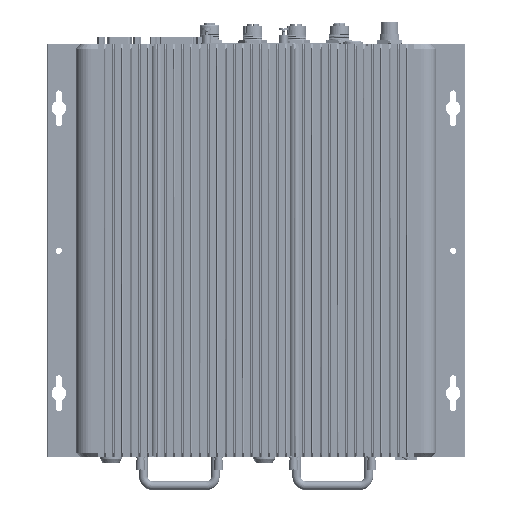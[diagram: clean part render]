
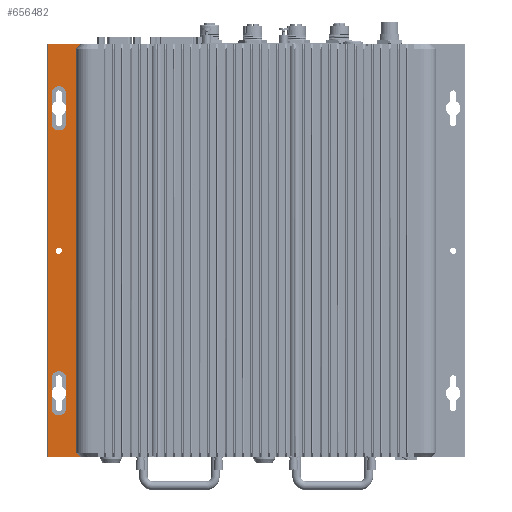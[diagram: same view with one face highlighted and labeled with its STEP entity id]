
A CAD part, front view. The second image highlights one B-rep face of the part: STEP entity #656482.
In plain terms, the highlighted planar face has unit normal (0, -1, 0).
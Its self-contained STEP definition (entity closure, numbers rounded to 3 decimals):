
#203703=DIRECTION('',(-1.,0.,0.));
#203704=VECTOR('',#203703,22.7);
#203705=CARTESIAN_POINT('',(3.703,87.203,-263.4));
#203706=LINE('',#203705,#203704);
#203760=DIRECTION('',(1.,0.,0.));
#203761=VECTOR('',#203760,22.7);
#203762=CARTESIAN_POINT('',(-18.997,87.203,23.4));
#203763=LINE('',#203762,#203761);
#203896=DIRECTION('',(0.,0.,1.));
#203897=VECTOR('',#203896,286.8);
#203898=CARTESIAN_POINT('',(-18.997,87.203,-263.4));
#203899=LINE('',#203898,#203897);
#203904=CARTESIAN_POINT('',(-11.497,87.203,-208.7));
#203905=DIRECTION('',(0.,1.,0.));
#203906=DIRECTION('',(-1.,0.,0.));
#203907=AXIS2_PLACEMENT_3D('',#203904,#203905,#203906);
#203909=DIRECTION('',(0.,0.,1.));
#203910=VECTOR('',#203909,20.6);
#203911=CARTESIAN_POINT('',(-16.597,87.203,-229.3));
#203912=LINE('',#203911,#203910);
#203913=CARTESIAN_POINT('',(-11.497,87.203,-229.3));
#203914=DIRECTION('',(0.,1.,0.));
#203915=DIRECTION('',(1.,0.,0.));
#203916=AXIS2_PLACEMENT_3D('',#203913,#203914,#203915);
#203918=DIRECTION('',(0.,0.,-1.));
#203919=VECTOR('',#203918,20.6);
#203920=CARTESIAN_POINT('',(-6.397,87.203,-208.7));
#203921=LINE('',#203920,#203919);
#203922=CARTESIAN_POINT('',(-11.497,87.203,-10.7));
#203923=DIRECTION('',(0.,1.,0.));
#203924=DIRECTION('',(-1.,0.,0.));
#203925=AXIS2_PLACEMENT_3D('',#203922,#203923,#203924);
#203927=DIRECTION('',(0.,0.,1.));
#203928=VECTOR('',#203927,20.6);
#203929=CARTESIAN_POINT('',(-16.597,87.203,-31.3));
#203930=LINE('',#203929,#203928);
#203931=CARTESIAN_POINT('',(-11.497,87.203,-31.3));
#203932=DIRECTION('',(0.,1.,0.));
#203933=DIRECTION('',(1.,0.,0.));
#203934=AXIS2_PLACEMENT_3D('',#203931,#203932,#203933);
#203936=DIRECTION('',(0.,0.,-1.));
#203937=VECTOR('',#203936,20.6);
#203938=CARTESIAN_POINT('',(-6.397,87.203,-10.7));
#203939=LINE('',#203938,#203937);
#203940=CARTESIAN_POINT('',(-11.497,87.203,-120.));
#203941=DIRECTION('',(0.,1.,0.));
#203942=DIRECTION('',(1.,0.,0.));
#203943=AXIS2_PLACEMENT_3D('',#203940,#203941,#203942);
#203945=CARTESIAN_POINT('',(-11.497,87.203,-120.));
#203946=DIRECTION('',(0.,1.,0.));
#203947=DIRECTION('',(-1.,0.,0.));
#203948=AXIS2_PLACEMENT_3D('',#203945,#203946,#203947);
#203950=DIRECTION('',(0.,0.,-1.));
#203951=VECTOR('',#203950,286.8);
#203952=CARTESIAN_POINT('',(3.703,87.203,23.4));
#203953=LINE('',#203952,#203951);
#301771=CARTESIAN_POINT('',(3.703,87.203,23.4));
#301772=VERTEX_POINT('',#301771);
#301798=CARTESIAN_POINT('',(-18.997,87.203,23.4));
#301799=VERTEX_POINT('',#301798);
#301804=CARTESIAN_POINT('',(3.703,87.203,-263.4));
#301805=VERTEX_POINT('',#301804);
#301852=CARTESIAN_POINT('',(-18.997,87.203,-263.4));
#301853=VERTEX_POINT('',#301852);
#301935=CARTESIAN_POINT('',(-16.597,87.203,-208.7));
#301936=VERTEX_POINT('',#301935);
#301939=CARTESIAN_POINT('',(-6.397,87.203,-208.7));
#301940=VERTEX_POINT('',#301939);
#301976=CARTESIAN_POINT('',(-16.597,87.203,-229.3));
#301977=VERTEX_POINT('',#301976);
#301982=CARTESIAN_POINT('',(-16.597,87.203,-10.7));
#301983=CARTESIAN_POINT('',(-6.397,87.203,-10.7));
#301984=VERTEX_POINT('',#301982);
#301985=VERTEX_POINT('',#301983);
#301986=CARTESIAN_POINT('',(-6.397,87.203,-229.3));
#301987=VERTEX_POINT('',#301986);
#302039=CARTESIAN_POINT('',(-9.347,87.203,-120.));
#302040=CARTESIAN_POINT('',(-13.647,87.203,-120.));
#302041=VERTEX_POINT('',#302039);
#302042=VERTEX_POINT('',#302040);
#302043=CARTESIAN_POINT('',(-6.397,87.203,-31.3));
#302044=VERTEX_POINT('',#302043);
#302045=CARTESIAN_POINT('',(-16.597,87.203,-31.3));
#302046=VERTEX_POINT('',#302045);
#656444=CARTESIAN_POINT('',(-19.497,87.203,-263.4));
#656445=DIRECTION('',(0.,-1.,0.));
#656446=DIRECTION('',(1.,0.,0.));
#656447=AXIS2_PLACEMENT_3D('',#656444,#656445,#656446);
#656448=PLANE('',#656447);
#656449=ORIENTED_EDGE('',*,*,#656275,.T.);
#656450=ORIENTED_EDGE('',*,*,#656436,.T.);
#656451=ORIENTED_EDGE('',*,*,#656318,.T.);
#656453=ORIENTED_EDGE('',*,*,#656452,.T.);
#656454=EDGE_LOOP('',(#656449,#656450,#656451,#656453));
#656455=FACE_OUTER_BOUND('',#656454,.F.);
#656457=ORIENTED_EDGE('',*,*,#656456,.F.);
#656459=ORIENTED_EDGE('',*,*,#656458,.F.);
#656461=ORIENTED_EDGE('',*,*,#656460,.F.);
#656463=ORIENTED_EDGE('',*,*,#656462,.F.);
#656464=EDGE_LOOP('',(#656457,#656459,#656461,#656463));
#656465=FACE_BOUND('',#656464,.F.);
#656467=ORIENTED_EDGE('',*,*,#656466,.F.);
#656469=ORIENTED_EDGE('',*,*,#656468,.F.);
#656471=ORIENTED_EDGE('',*,*,#656470,.F.);
#656473=ORIENTED_EDGE('',*,*,#656472,.F.);
#656474=EDGE_LOOP('',(#656467,#656469,#656471,#656473));
#656475=FACE_BOUND('',#656474,.F.);
#656477=ORIENTED_EDGE('',*,*,#656476,.F.);
#656479=ORIENTED_EDGE('',*,*,#656478,.F.);
#656480=EDGE_LOOP('',(#656477,#656479));
#656481=FACE_BOUND('',#656480,.F.);
#656482=ADVANCED_FACE('',(#656455,#656465,#656475,#656481),#656448,.T.);
#203908=CIRCLE('',#203907,5.1);
#203917=CIRCLE('',#203916,5.1);
#203926=CIRCLE('',#203925,5.1);
#203935=CIRCLE('',#203934,5.1);
#203944=CIRCLE('',#203943,2.15);
#203949=CIRCLE('',#203948,2.15);
#656275=EDGE_CURVE('',#301805,#301853,#203706,.T.);
#656318=EDGE_CURVE('',#301799,#301772,#203763,.T.);
#656436=EDGE_CURVE('',#301853,#301799,#203899,.T.);
#656452=EDGE_CURVE('',#301772,#301805,#203953,.T.);
#656456=EDGE_CURVE('',#301936,#301940,#203908,.T.);
#656458=EDGE_CURVE('',#301977,#301936,#203912,.T.);
#656460=EDGE_CURVE('',#301987,#301977,#203917,.T.);
#656462=EDGE_CURVE('',#301940,#301987,#203921,.T.);
#656466=EDGE_CURVE('',#301984,#301985,#203926,.T.);
#656468=EDGE_CURVE('',#302046,#301984,#203930,.T.);
#656470=EDGE_CURVE('',#302044,#302046,#203935,.T.);
#656472=EDGE_CURVE('',#301985,#302044,#203939,.T.);
#656476=EDGE_CURVE('',#302041,#302042,#203944,.T.);
#656478=EDGE_CURVE('',#302042,#302041,#203949,.T.);
